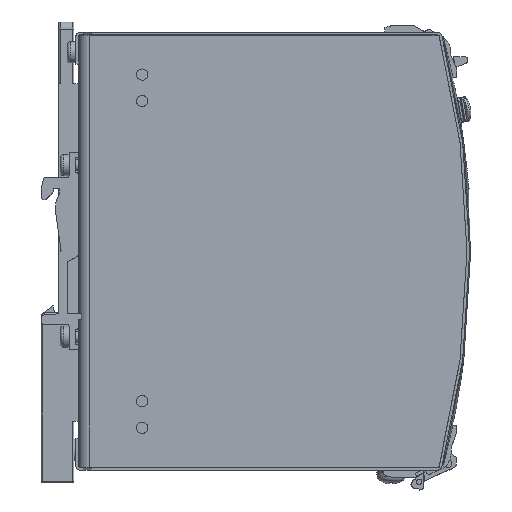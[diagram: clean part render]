
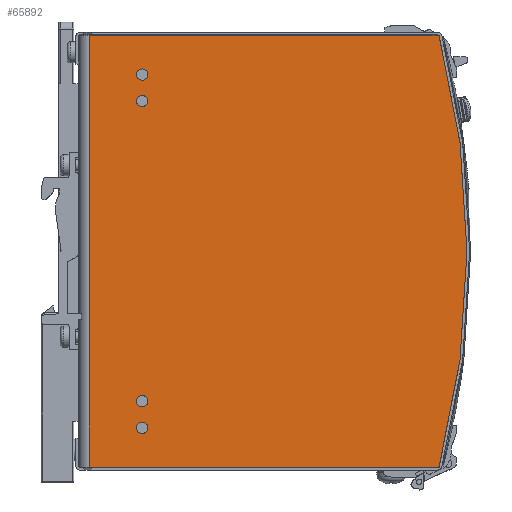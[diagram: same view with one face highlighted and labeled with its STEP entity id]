
A CAD part, front view. The second image highlights one B-rep face of the part: STEP entity #65892.
In plain terms, the highlighted planar face has unit normal (0, -1, 0).
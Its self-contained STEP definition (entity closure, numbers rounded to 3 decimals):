
#2101=LINE('',#91611,#9585);
#2108=LINE('',#91635,#9592);
#2110=LINE('',#91640,#9594);
#9585=VECTOR('',#74389,99.079);
#9592=VECTOR('',#74416,122.3);
#9594=VECTOR('',#74422,99.079);
#17053=PLANE('',#69474);
#19598=FACE_BOUND('',#23887,.T.);
#19599=FACE_BOUND('',#23888,.T.);
#19600=FACE_BOUND('',#23889,.T.);
#19601=FACE_BOUND('',#23890,.T.);
#20373=FACE_OUTER_BOUND('',#23886,.T.);
#23886=EDGE_LOOP('',(#45863,#45864,#45865,#45866));
#23887=EDGE_LOOP('',(#45867));
#23888=EDGE_LOOP('',(#45868));
#23889=EDGE_LOOP('',(#45869));
#23890=EDGE_LOOP('',(#45870));
#28125=CIRCLE('',#69432,1.6);
#28127=CIRCLE('',#69435,1.6);
#28129=CIRCLE('',#69438,1.6);
#28131=CIRCLE('',#69441,1.6);
#28136=CIRCLE('',#69453,240.);
#29516=VERTEX_POINT('',#91521);
#29518=VERTEX_POINT('',#91526);
#29520=VERTEX_POINT('',#91531);
#29522=VERTEX_POINT('',#91536);
#29535=VERTEX_POINT('',#91573);
#29536=VERTEX_POINT('',#91574);
#29550=VERTEX_POINT('',#91610);
#29557=VERTEX_POINT('',#91634);
#36018=EDGE_CURVE('',#29516,#29516,#28125,.T.);
#36020=EDGE_CURVE('',#29518,#29518,#28127,.T.);
#36022=EDGE_CURVE('',#29520,#29520,#28129,.T.);
#36024=EDGE_CURVE('',#29522,#29522,#28131,.T.);
#36041=EDGE_CURVE('',#29535,#29536,#28136,.T.);
#36059=EDGE_CURVE('',#29535,#29550,#2101,.T.);
#36071=EDGE_CURVE('',#29557,#29550,#2108,.T.);
#36074=EDGE_CURVE('',#29536,#29557,#2110,.T.);
#45863=ORIENTED_EDGE('',*,*,#36041,.T.);
#45864=ORIENTED_EDGE('',*,*,#36074,.T.);
#45865=ORIENTED_EDGE('',*,*,#36071,.T.);
#45866=ORIENTED_EDGE('',*,*,#36059,.F.);
#45867=ORIENTED_EDGE('',*,*,#36018,.T.);
#45868=ORIENTED_EDGE('',*,*,#36020,.T.);
#45869=ORIENTED_EDGE('',*,*,#36022,.T.);
#45870=ORIENTED_EDGE('',*,*,#36024,.T.);
#65892=ADVANCED_FACE('',(#20373,#19598,#19599,#19600,#19601),#17053,.T.);
#69432=AXIS2_PLACEMENT_3D('',#91522,#74303,#74304);
#69435=AXIS2_PLACEMENT_3D('',#91527,#74309,#74310);
#69438=AXIS2_PLACEMENT_3D('',#91532,#74315,#74316);
#69441=AXIS2_PLACEMENT_3D('',#91537,#74321,#74322);
#69453=AXIS2_PLACEMENT_3D('',#91575,#74357,#74358);
#69474=AXIS2_PLACEMENT_3D('',#91639,#74420,#74421);
#74303=DIRECTION('center_axis',(0.,1.,0.));
#74304=DIRECTION('ref_axis',(-1.,0.,0.));
#74309=DIRECTION('center_axis',(0.,1.,0.));
#74310=DIRECTION('ref_axis',(-1.,0.,0.));
#74315=DIRECTION('center_axis',(0.,1.,0.));
#74316=DIRECTION('ref_axis',(-1.,0.,0.));
#74321=DIRECTION('center_axis',(0.,1.,0.));
#74322=DIRECTION('ref_axis',(-1.,0.,0.));
#74357=DIRECTION('center_axis',(0.,-1.,0.));
#74358=DIRECTION('ref_axis',(-0.967,0.,-0.255));
#74389=DIRECTION('',(-1.,0.,0.));
#74416=DIRECTION('',(0.,0.,-1.));
#74420=DIRECTION('center_axis',(0.,-1.,0.));
#74421=DIRECTION('ref_axis',(0.,0.,-1.));
#74422=DIRECTION('',(-1.,0.,0.));
#91521=CARTESIAN_POINT('',(19.6,-19.5,-42.5));
#91522=CARTESIAN_POINT('Origin',(18.,-19.5,-42.5));
#91526=CARTESIAN_POINT('',(19.6,-19.5,50.));
#91527=CARTESIAN_POINT('Origin',(18.,-19.5,50.));
#91531=CARTESIAN_POINT('',(19.6,-19.5,42.5));
#91532=CARTESIAN_POINT('Origin',(18.,-19.5,42.5));
#91536=CARTESIAN_POINT('',(19.6,-19.5,-50.));
#91537=CARTESIAN_POINT('Origin',(18.,-19.5,-50.));
#91573=CARTESIAN_POINT('',(102.079,-19.5,-61.15));
#91574=CARTESIAN_POINT('',(102.079,-19.5,61.15));
#91575=CARTESIAN_POINT('Origin',(-130.,-19.5,0.));
#91610=CARTESIAN_POINT('',(3.,-19.5,-61.15));
#91611=CARTESIAN_POINT('',(130.,-19.5,-61.15));
#91634=CARTESIAN_POINT('',(3.,-19.5,61.15));
#91635=CARTESIAN_POINT('',(3.,-19.5,-61.15));
#91639=CARTESIAN_POINT('Origin',(130.,-19.5,-61.15));
#91640=CARTESIAN_POINT('',(130.,-19.5,61.15));
